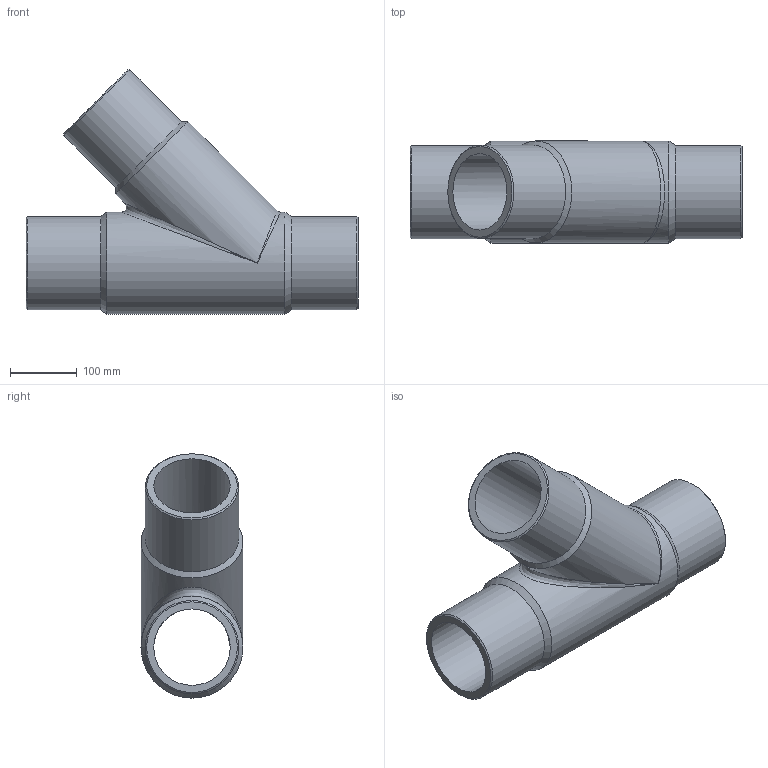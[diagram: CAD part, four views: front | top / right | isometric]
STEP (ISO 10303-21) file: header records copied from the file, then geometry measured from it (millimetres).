
FILE_DESCRIPTION(/* description */ ('Unknown'),/* implementation_level */ '2;1');
FILE_NAME(/* name */ 'T4P140C',/* time_stamp */ '2022-02-23T10:57:43+01:00',/* author */ ('Unknown'),/* organization */ ('Unknown'),/* preprocessor_version */ 'ST-DEVELOPER v18.1',/* originating_system */ 'Solid Edge',/* authorisation */ 'Unknown');
FILE_SCHEMA (('AUTOMOTIVE_DESIGN {1 0 10303 214 3 1 1}'));
Length unit declared in the file: millimetre
Products named in the file (1): T4P140C
Bounding box: 498 x 153 x 366.55 mm (x, y, z)
Volume: 4798683.4 mm3; surface area: 604371.3 mm2
Topology: 1 solids, 1 shells, 18 faces, 47 edges, 26 vertices
Faces by surface type: cylinder 7, cone 6, plane 3, bspline 2
Full cylindrical faces by diameter (mm): 114.6 x2, 140 x3, 153 x2
Entity records: 522 total; most frequent: CARTESIAN_POINT 165, DIRECTION 76, ORIENTED_EDGE 42, AXIS2_PLACEMENT_3D 38, EDGE_LOOP 36, FACE_BOUND 36, EDGE_CURVE 21, VERTEX_POINT 19
